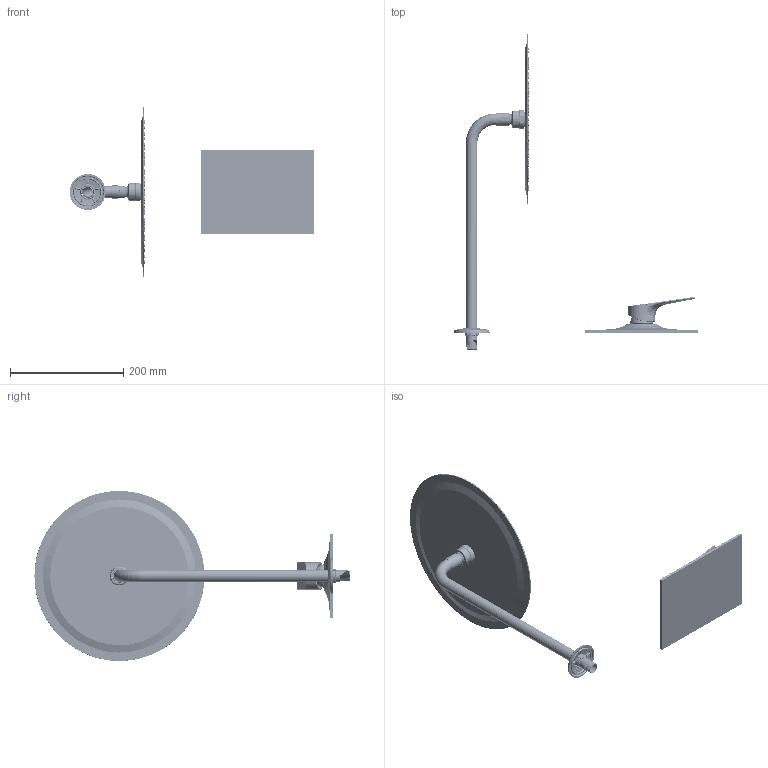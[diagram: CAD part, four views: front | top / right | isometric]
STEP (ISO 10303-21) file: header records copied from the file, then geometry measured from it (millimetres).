
FILE_DESCRIPTION (( 'STEP AP203' ), '1' );
FILE_NAME ('sku_2893series_stp.STEP', '2026-03-02T08:35:06', ( '' ), ( '' ), 'SwSTEP 2.0', 'SolidWorks 2025', '' );
FILE_SCHEMA (( 'CONFIG_CONTROL_DESIGN' ));
Products named in the file (1): sku_2893series_stp
Bounding box: 431.75 x 556.4 x 300 mm (x, y, z)
Volume: 330537 mm3; surface area: 637506.9 mm2
Topology: 14 solids, 14 shells, 5462 faces, 12738 edges, 7737 vertices
Faces by surface type: torus 1569, cylinder 1412, plane 1114, bspline 775, cone 561, sphere 31
Full cylindrical faces by diameter (mm): 2.54 x2, 5.055 x1, 5.156 x2, 5.74 x1, 8.128 x1, 17.348 x2, 20.295 x2, 30.8 x1, 43 x1, 44.445 x1, 48 x1, 49.556 x1, 51.181 x1
Entity records: 260036 total; most frequent: CARTESIAN_POINT 147128, ORIENTED_EDGE 25186, DIRECTION 20367, EDGE_CURVE 12593, AXIS2_PLACEMENT_3D 8549, VERTEX_POINT 7705, EDGE_LOOP 6512, FACE_OUTER_BOUND 5498
